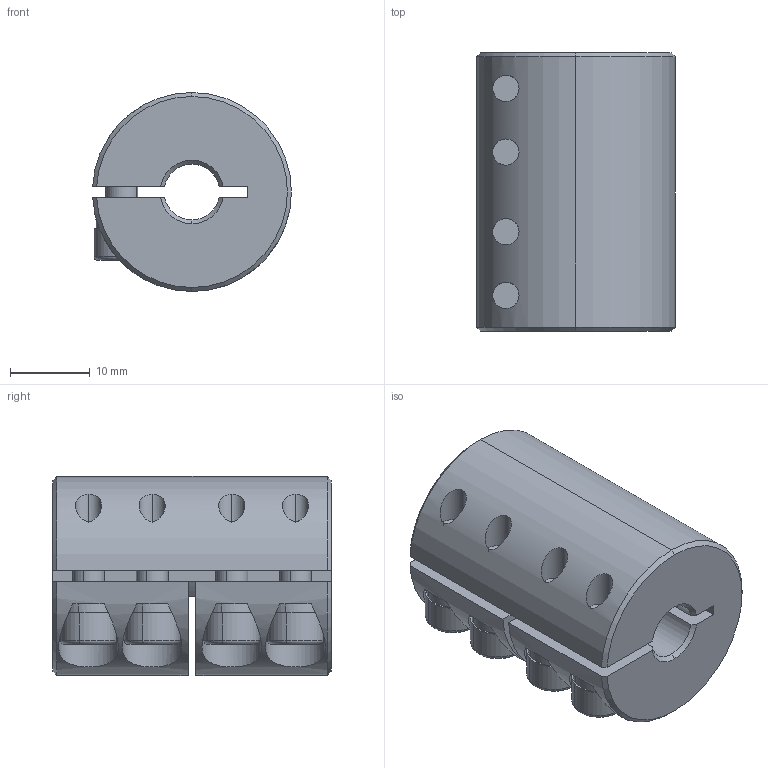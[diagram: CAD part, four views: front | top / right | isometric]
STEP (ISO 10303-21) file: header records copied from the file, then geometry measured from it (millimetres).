
FILE_DESCRIPTION (( 'STEP AP203' ), '1' );
FILE_NAME ('LL-B-D25L35-7-7.STEP', '2021-11-05T06:57:44', ( '' ), ( '' ), 'SwSTEP 2.0', 'SolidWorks 2018', '' );
FILE_SCHEMA (( 'CONFIG_CONTROL_DESIGN' ));
Length unit declared in the file: millimetre
Products named in the file (1): LL-B-D25L35-7-7
Bounding box: 24.98 x 35 x 25 mm (x, y, z)
Volume: 14709.6 mm3; surface area: 6877.7 mm2
Topology: 1 solids, 1 shells, 187 faces, 478 edges, 297 vertices
Faces by surface type: plane 90, cylinder 69, cone 20, torus 8
Entity records: 6142 total; most frequent: CARTESIAN_POINT 1467, DIRECTION 1011, ORIENTED_EDGE 940, EDGE_CURVE 470, AXIS2_PLACEMENT_3D 393, VERTEX_POINT 297, LINE 225, VECTOR 225
